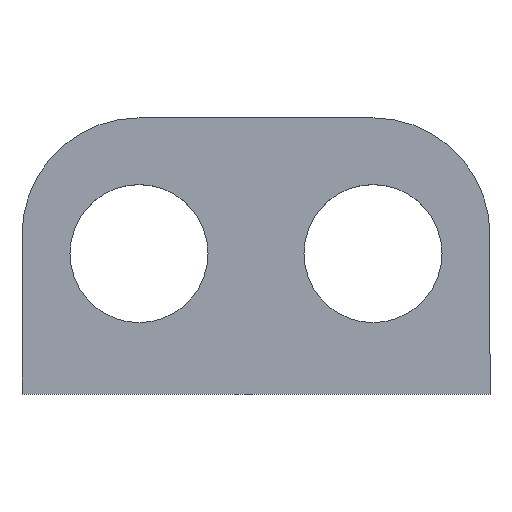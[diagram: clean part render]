
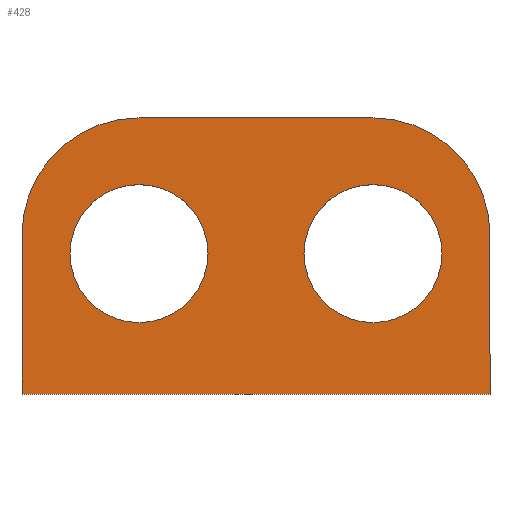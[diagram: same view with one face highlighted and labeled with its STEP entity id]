
A CAD part, top view. The second image highlights one B-rep face of the part: STEP entity #428.
In plain terms, the highlighted planar face has unit normal (0, 0, 1).
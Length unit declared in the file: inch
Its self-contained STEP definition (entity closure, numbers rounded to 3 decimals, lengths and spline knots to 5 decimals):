
#1 = AXIS2_PLACEMENT_3D ( 'NONE', #290, #320, #295 ) ;
#5 = AXIS2_PLACEMENT_3D ( 'NONE', #404, #150, #142 ) ;
#13 = VERTEX_POINT ( 'NONE', #314 ) ;
#16 = VECTOR ( 'NONE', #425, 39.37008 ) ;
#26 = CIRCLE ( 'NONE', #262, 0.295 ) ;
#32 = VECTOR ( 'NONE', #55, 39.37008 ) ;
#39 = ORIENTED_EDGE ( 'NONE', *, *, #60, .T. ) ;
#41 = PLANE ( 'NONE',  #322 ) ;
#46 = CARTESIAN_POINT ( 'NONE',  ( 1.5, 0.6, 0.236 ) ) ;
#47 = EDGE_CURVE ( 'NONE', #350, #222, #87, .T. ) ;
#53 = ORIENTED_EDGE ( 'NONE', *, *, #270, .T. ) ;
#54 = DIRECTION ( 'NONE',  ( -1., 0., 0. ) ) ;
#55 = DIRECTION ( 'NONE',  ( 0., 1., 0. ) ) ;
#58 = CARTESIAN_POINT ( 'NONE',  ( 0.5, 0.6, 0.236 ) ) ;
#60 = EDGE_CURVE ( 'NONE', #415, #340, #211, .T. ) ;
#70 = VECTOR ( 'NONE', #333, 39.37008 ) ;
#74 = EDGE_LOOP ( 'NONE', ( #388, #403 ) ) ;
#77 = CARTESIAN_POINT ( 'NONE',  ( 2., 0., 0.236 ) ) ;
#80 = EDGE_CURVE ( 'NONE', #340, #350, #261, .T. ) ;
#83 = CARTESIAN_POINT ( 'NONE',  ( 1.205, 0.6, 0.236 ) ) ;
#86 = FACE_BOUND ( 'NONE', #74, .T. ) ;
#87 = LINE ( 'NONE', #342, #89 ) ;
#89 = VECTOR ( 'NONE', #242, 39.37008 ) ;
#92 = CARTESIAN_POINT ( 'NONE',  ( 1.5, 0.6, 0.236 ) ) ;
#93 = VERTEX_POINT ( 'NONE', #254 ) ;
#95 = CARTESIAN_POINT ( 'NONE',  ( 0., 0.68, 0.236 ) ) ;
#98 = CIRCLE ( 'NONE', #235, 0.295 ) ;
#100 = EDGE_CURVE ( 'NONE', #116, #112, #331, .T. ) ;
#108 = AXIS2_PLACEMENT_3D ( 'NONE', #250, #184, #114 ) ;
#112 = VERTEX_POINT ( 'NONE', #373 ) ;
#114 = DIRECTION ( 'NONE',  ( -1., 0., 0. ) ) ;
#116 = VERTEX_POINT ( 'NONE', #83 ) ;
#123 = LINE ( 'NONE', #353, #70 ) ;
#142 = DIRECTION ( 'NONE',  ( -1., 0., 0. ) ) ;
#147 = ORIENTED_EDGE ( 'NONE', *, *, #80, .T. ) ;
#150 = DIRECTION ( 'NONE',  ( 0., 0., 1. ) ) ;
#159 = EDGE_CURVE ( 'NONE', #93, #415, #123, .T. ) ;
#174 = ORIENTED_EDGE ( 'NONE', *, *, #159, .T. ) ;
#184 = DIRECTION ( 'NONE',  ( 0., 0., 1. ) ) ;
#189 = DIRECTION ( 'NONE',  ( 0., 0., 1. ) ) ;
#200 = AXIS2_PLACEMENT_3D ( 'NONE', #46, #408, #220 ) ;
#211 = LINE ( 'NONE', #304, #32 ) ;
#213 = ORIENTED_EDGE ( 'NONE', *, *, #361, .F. ) ;
#220 = DIRECTION ( 'NONE',  ( 1., 0., 0. ) ) ;
#222 = VERTEX_POINT ( 'NONE', #359 ) ;
#235 = AXIS2_PLACEMENT_3D ( 'NONE', #58, #189, #258 ) ;
#238 = EDGE_CURVE ( 'NONE', #371, #13, #399, .T. ) ;
#242 = DIRECTION ( 'NONE',  ( -1., 0., 0. ) ) ;
#246 = CARTESIAN_POINT ( 'NONE',  ( 0.5, 0.68, 0.236 ) ) ;
#250 = CARTESIAN_POINT ( 'NONE',  ( 0.5, 0.68, 0.236 ) ) ;
#254 = CARTESIAN_POINT ( 'NONE',  ( 0., 0., 0.236 ) ) ;
#258 = DIRECTION ( 'NONE',  ( 1., 0., 0. ) ) ;
#260 = CARTESIAN_POINT ( 'NONE',  ( 2., 0.68, 0.236 ) ) ;
#261 = CIRCLE ( 'NONE', #5, 0.5 ) ;
#262 = AXIS2_PLACEMENT_3D ( 'NONE', #92, #325, #303 ) ;
#270 = EDGE_CURVE ( 'NONE', #301, #93, #356, .T. ) ;
#274 = ORIENTED_EDGE ( 'NONE', *, *, #405, .T. ) ;
#276 = CARTESIAN_POINT ( 'NONE',  ( 0.795, 0.6, 0.236 ) ) ;
#290 = CARTESIAN_POINT ( 'NONE',  ( 0.5, 0.6, 0.236 ) ) ;
#295 = DIRECTION ( 'NONE',  ( 1., 0., 0. ) ) ;
#298 = EDGE_CURVE ( 'NONE', #13, #371, #98, .T. ) ;
#301 = VERTEX_POINT ( 'NONE', #95 ) ;
#302 = ORIENTED_EDGE ( 'NONE', *, *, #47, .T. ) ;
#303 = DIRECTION ( 'NONE',  ( 1., 0., 0. ) ) ;
#304 = CARTESIAN_POINT ( 'NONE',  ( 2., 0., 0.236 ) ) ;
#310 = CIRCLE ( 'NONE', #108, 0.5 ) ;
#314 = CARTESIAN_POINT ( 'NONE',  ( 0.205, 0.6, 0.236 ) ) ;
#315 = EDGE_LOOP ( 'NONE', ( #316, #213 ) ) ;
#316 = ORIENTED_EDGE ( 'NONE', *, *, #100, .F. ) ;
#320 = DIRECTION ( 'NONE',  ( 0., 0., 1. ) ) ;
#322 = AXIS2_PLACEMENT_3D ( 'NONE', #246, #381, #54 ) ;
#324 = CARTESIAN_POINT ( 'NONE',  ( 0., 0., 0.236 ) ) ;
#325 = DIRECTION ( 'NONE',  ( 0., 0., 1. ) ) ;
#331 = CIRCLE ( 'NONE', #200, 0.295 ) ;
#333 = DIRECTION ( 'NONE',  ( 1., 0., 0. ) ) ;
#340 = VERTEX_POINT ( 'NONE', #260 ) ;
#342 = CARTESIAN_POINT ( 'NONE',  ( 0.5, 1.18, 0.236 ) ) ;
#350 = VERTEX_POINT ( 'NONE', #363 ) ;
#353 = CARTESIAN_POINT ( 'NONE',  ( 0., 0., 0.236 ) ) ;
#356 = LINE ( 'NONE', #324, #16 ) ;
#359 = CARTESIAN_POINT ( 'NONE',  ( 0.5, 1.18, 0.236 ) ) ;
#361 = EDGE_CURVE ( 'NONE', #112, #116, #26, .T. ) ;
#363 = CARTESIAN_POINT ( 'NONE',  ( 1.5, 1.18, 0.236 ) ) ;
#371 = VERTEX_POINT ( 'NONE', #276 ) ;
#372 = FACE_OUTER_BOUND ( 'NONE', #375, .T. ) ;
#373 = CARTESIAN_POINT ( 'NONE',  ( 1.795, 0.6, 0.236 ) ) ;
#375 = EDGE_LOOP ( 'NONE', ( #53, #174, #39, #147, #302, #274 ) ) ;
#377 = FACE_BOUND ( 'NONE', #315, .T. ) ;
#381 = DIRECTION ( 'NONE',  ( 0., 0., -1. ) ) ;
#388 = ORIENTED_EDGE ( 'NONE', *, *, #298, .F. ) ;
#399 = CIRCLE ( 'NONE', #1, 0.295 ) ;
#403 = ORIENTED_EDGE ( 'NONE', *, *, #238, .F. ) ;
#404 = CARTESIAN_POINT ( 'NONE',  ( 1.5, 0.68, 0.236 ) ) ;
#405 = EDGE_CURVE ( 'NONE', #222, #301, #310, .T. ) ;
#408 = DIRECTION ( 'NONE',  ( 0., 0., 1. ) ) ;
#415 = VERTEX_POINT ( 'NONE', #77 ) ;
#425 = DIRECTION ( 'NONE',  ( 0., -1., 0. ) ) ;
#428 = ADVANCED_FACE ( 'NONE', ( #372, #377, #86 ), #41, .F. ) ;
